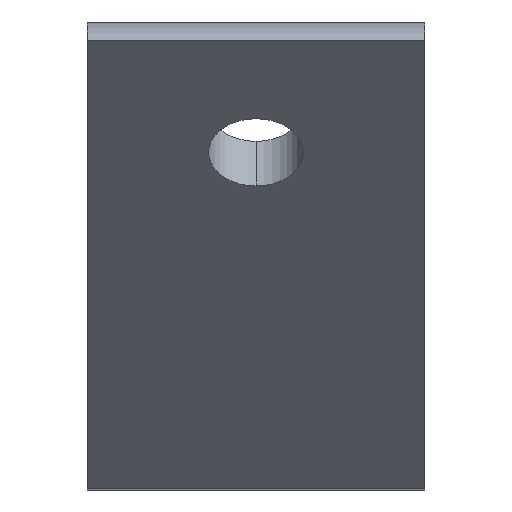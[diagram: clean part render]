
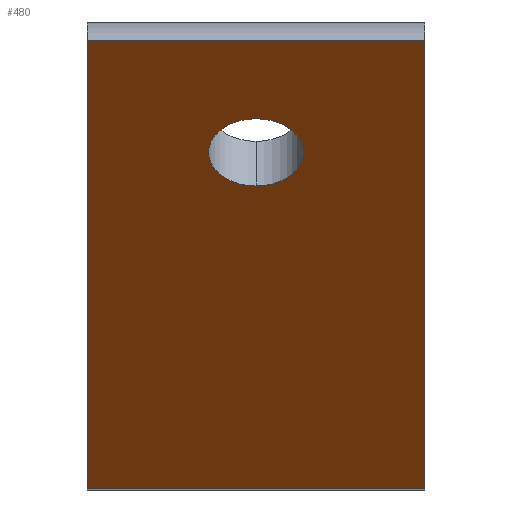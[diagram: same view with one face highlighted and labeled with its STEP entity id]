
A CAD part, top view. The second image highlights one B-rep face of the part: STEP entity #480.
In plain terms, the highlighted planar face has unit normal (0, -0.707, 0.707).
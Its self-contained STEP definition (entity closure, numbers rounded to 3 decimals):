
#2 = ORIENTED_EDGE ( 'NONE', *, *, #439, .T. ) ;
#23 = ORIENTED_EDGE ( 'NONE', *, *, #463, .T. ) ;
#36 = EDGE_LOOP ( 'NONE', ( #205, #23 ) ) ;
#58 = DIRECTION ( 'NONE',  ( 0., 0.707, 0.707 ) ) ;
#65 = CARTESIAN_POINT ( 'NONE',  ( 0., -20.571, 18.418 ) ) ;
#88 = LINE ( 'NONE', #209, #214 ) ;
#106 = LINE ( 'NONE', #382, #519 ) ;
#108 = CIRCLE ( 'NONE', #238, 4.5 ) ;
#111 = CARTESIAN_POINT ( 'NONE',  ( 32., -20.571, 18.418 ) ) ;
#114 = CARTESIAN_POINT ( 'NONE',  ( 16., 8.067, 47.055 ) ) ;
#160 = CARTESIAN_POINT ( 'NONE',  ( 0., -20.571, 18.418 ) ) ;
#173 = DIRECTION ( 'NONE',  ( 0., 0.707, -0.707 ) ) ;
#198 = DIRECTION ( 'NONE',  ( 0., 0.707, -0.707 ) ) ;
#199 = EDGE_CURVE ( 'NONE', #356, #417, #650, .T. ) ;
#205 = ORIENTED_EDGE ( 'NONE', *, *, #199, .T. ) ;
#209 = CARTESIAN_POINT ( 'NONE',  ( 32., 21.855, 60.844 ) ) ;
#214 = VECTOR ( 'NONE', #581, 1000. ) ;
#219 = VERTEX_POINT ( 'NONE', #620 ) ;
#221 = DIRECTION ( 'NONE',  ( -1., 0., 0. ) ) ;
#222 = CARTESIAN_POINT ( 'NONE',  ( 16., 14.431, 53.419 ) ) ;
#232 = DIRECTION ( 'NONE',  ( 0., -0.707, -0.707 ) ) ;
#235 = FACE_BOUND ( 'NONE', #36, .T. ) ;
#238 = AXIS2_PLACEMENT_3D ( 'NONE', #273, #374, #58 ) ;
#259 = EDGE_CURVE ( 'NONE', #538, #490, #415, .T. ) ;
#264 = VECTOR ( 'NONE', #232, 1000. ) ;
#273 = CARTESIAN_POINT ( 'NONE',  ( 16., 11.249, 50.237 ) ) ;
#276 = CARTESIAN_POINT ( 'NONE',  ( 32., -20.571, 18.418 ) ) ;
#314 = CARTESIAN_POINT ( 'NONE',  ( 32., 21.855, 60.844 ) ) ;
#356 = VERTEX_POINT ( 'NONE', #222 ) ;
#374 = DIRECTION ( 'NONE',  ( 0., 0.707, -0.707 ) ) ;
#377 = EDGE_CURVE ( 'NONE', #490, #552, #106, .T. ) ;
#382 = CARTESIAN_POINT ( 'NONE',  ( 32., -20.571, 18.418 ) ) ;
#414 = ORIENTED_EDGE ( 'NONE', *, *, #453, .T. ) ;
#415 = LINE ( 'NONE', #603, #264 ) ;
#417 = VERTEX_POINT ( 'NONE', #114 ) ;
#425 = AXIS2_PLACEMENT_3D ( 'NONE', #503, #198, #571 ) ;
#429 = PLANE ( 'NONE',  #449 ) ;
#439 = EDGE_CURVE ( 'NONE', #538, #219, #88, .T. ) ;
#449 = AXIS2_PLACEMENT_3D ( 'NONE', #111, #173, #527 ) ;
#453 = EDGE_CURVE ( 'NONE', #219, #552, #676, .T. ) ;
#463 = EDGE_CURVE ( 'NONE', #417, #356, #108, .T. ) ;
#469 = DIRECTION ( 'NONE',  ( 0., -0.707, -0.707 ) ) ;
#480 = ADVANCED_FACE ( 'NONE', ( #235, #662 ), #429, .F. ) ;
#490 = VERTEX_POINT ( 'NONE', #276 ) ;
#503 = CARTESIAN_POINT ( 'NONE',  ( 16., 11.249, 50.237 ) ) ;
#519 = VECTOR ( 'NONE', #221, 1000. ) ;
#524 = VECTOR ( 'NONE', #469, 1000. ) ;
#527 = DIRECTION ( 'NONE',  ( 0., 0.707, 0.707 ) ) ;
#538 = VERTEX_POINT ( 'NONE', #314 ) ;
#552 = VERTEX_POINT ( 'NONE', #160 ) ;
#571 = DIRECTION ( 'NONE',  ( 0., 0.707, 0.707 ) ) ;
#581 = DIRECTION ( 'NONE',  ( -1., 0., 0. ) ) ;
#589 = EDGE_LOOP ( 'NONE', ( #414, #609, #685, #2 ) ) ;
#603 = CARTESIAN_POINT ( 'NONE',  ( 32., -20.571, 18.418 ) ) ;
#609 = ORIENTED_EDGE ( 'NONE', *, *, #377, .F. ) ;
#620 = CARTESIAN_POINT ( 'NONE',  ( 0., 21.855, 60.844 ) ) ;
#650 = CIRCLE ( 'NONE', #425, 4.5 ) ;
#662 = FACE_OUTER_BOUND ( 'NONE', #589, .T. ) ;
#676 = LINE ( 'NONE', #65, #524 ) ;
#685 = ORIENTED_EDGE ( 'NONE', *, *, #259, .F. ) ;
